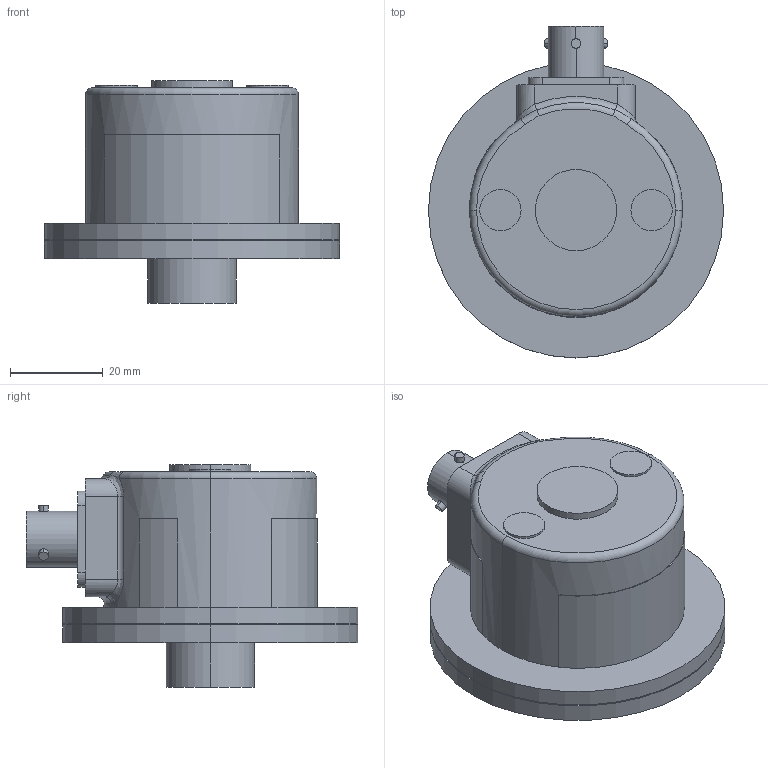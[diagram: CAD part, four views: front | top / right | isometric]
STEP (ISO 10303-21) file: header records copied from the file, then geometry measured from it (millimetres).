
FILE_DESCRIPTION (( 'STEP AP214' ), '1' );
FILE_NAME ('PV56M-TYPE.STEP', '2008-01-31T15:30:26', ( 'Authorized User' ), ( 'Precision Sensors' ), 'SwSTEP 2.0', 'SolidWorks 2006303', '' );
FILE_SCHEMA (( 'AUTOMOTIVE_DESIGN' ));
Length unit declared in the file: inch
Products named in the file (1): PV56M-TYPE
Bounding box: 63.5 x 71.37 x 47.96 mm (x, y, z)
Volume: 79562.6 mm3; surface area: 14493.4 mm2
Topology: 1 solids, 1 shells, 93 faces, 214 edges, 138 vertices
Faces by surface type: cylinder 41, plane 36, bspline 6, torus 6, cone 4
Entity records: 3196 total; most frequent: CARTESIAN_POINT 1018, DIRECTION 475, ORIENTED_EDGE 428, EDGE_CURVE 214, AXIS2_PLACEMENT_3D 193, VERTEX_POINT 138, EDGE_LOOP 108, CIRCLE 105
